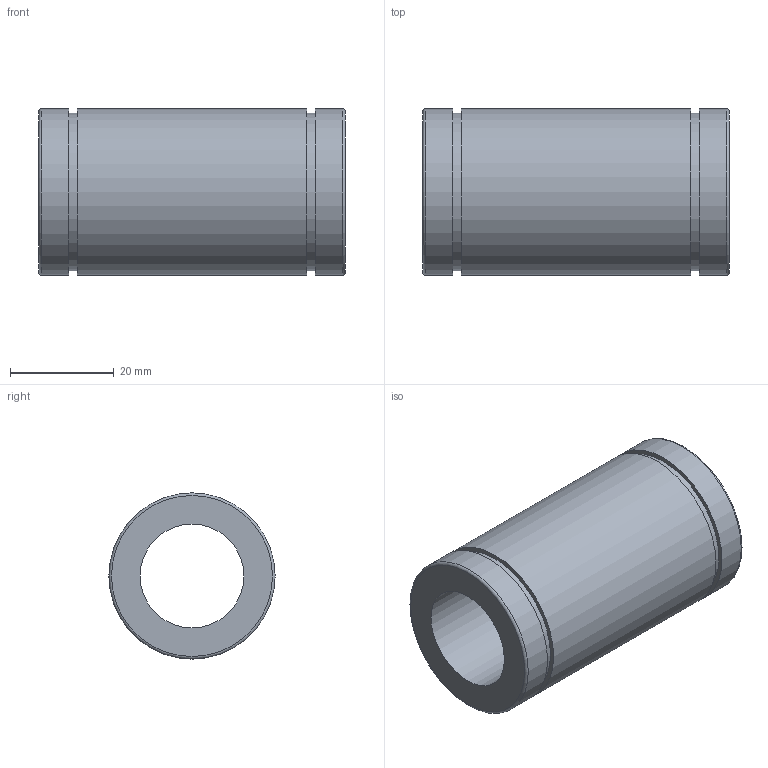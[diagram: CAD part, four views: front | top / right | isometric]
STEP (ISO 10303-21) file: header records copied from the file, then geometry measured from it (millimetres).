
FILE_DESCRIPTION(('STEP AP203'),'1');
FILE_NAME('//192.168.1.1/share/s-4 技術開発/s-4-13_CAD/03_見直し済み/001 修正済み/N-VM/N-VM_STEP/N-20VM.step','2020-04-08T00:07:36',(' '),(' '),'Spatial InterOp 3D',' ',' ');
FILE_SCHEMA(('CONFIG_CONTROL_DESIGN'));
Length unit declared in the file: millimetre
Products named in the file (1): 1
Bounding box: 59 x 32 x 32 mm (x, y, z)
Volume: 28630 mm3; surface area: 10890.3 mm2
Topology: 1 solids, 1 shells, 14 faces, 22 edges, 14 vertices
Faces by surface type: plane 6, cylinder 6, torus 2
Full cylindrical faces by diameter (mm): 20 x1, 30.3 x2, 32 x3
Entity records: 332 total; most frequent: DIRECTION 58, CARTESIAN_POINT 43, AXIS2_PLACEMENT_3D 29, EDGE_LOOP 28, ORIENTED_EDGE 28, FACE_OUTER_BOUND 22, ADVANCED_FACE 14, EDGE_CURVE 14
